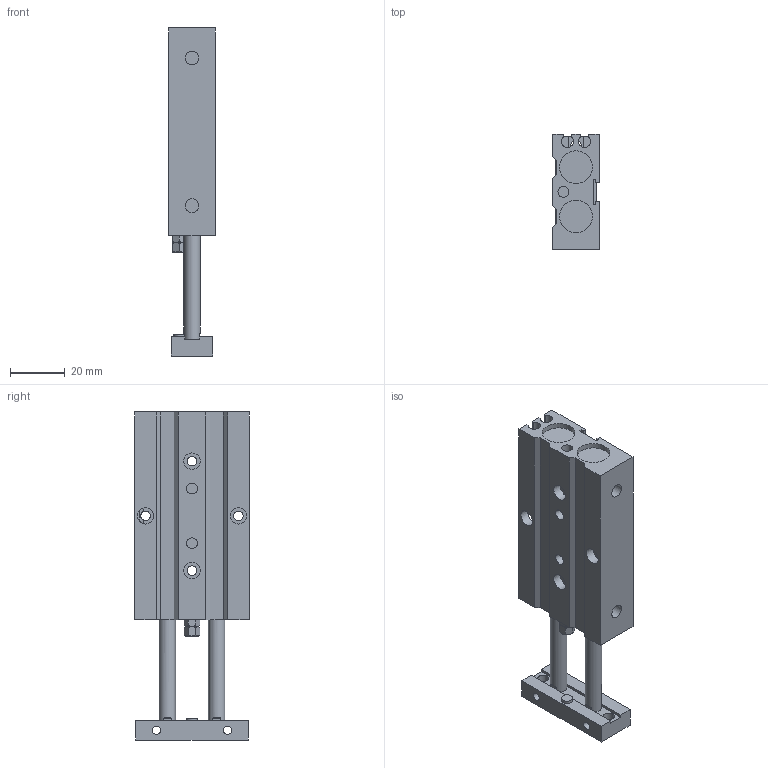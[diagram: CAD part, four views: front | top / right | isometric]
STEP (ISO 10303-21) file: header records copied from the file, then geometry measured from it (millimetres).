
FILE_DESCRIPTION((''),'2;1');
FILE_NAME('I:\3D電子目錄\氣缸\TD\TD10\TD10\TD10x30.stp','2007-08-06T09:34:31',('Administrator'),(''),'Autodesk Inventor 2008','Autodesk Inventor 2008','');
FILE_SCHEMA(('AUTOMOTIVE_DESIGN { 1 0 10303 214 1 1 1 1 }'));
Length unit declared in the file: millimetre
Products named in the file (1): TD10X30
Bounding box: 17 x 42 x 120 mm (x, y, z)
Volume: 52263.6 mm3; surface area: 18339.6 mm2
Topology: 1 solids, 3 shells, 153 faces, 377 edges, 246 vertices
Faces by surface type: plane 99, cylinder 32, bspline 13, cone 7, torus 2
Full cylindrical faces by diameter (mm): 3 x2, 3.5 x4, 4 x4, 4.011 x2, 5 x4, 6 x8, 7 x2, 12 x4
Entity records: 4542 total; most frequent: CARTESIAN_POINT 1135, DIRECTION 662, ORIENTED_EDGE 644, EDGE_CURVE 322, EDGE_LOOP 238, VERTEX_POINT 234, AXIS2_PLACEMENT_3D 229, VECTOR 204
